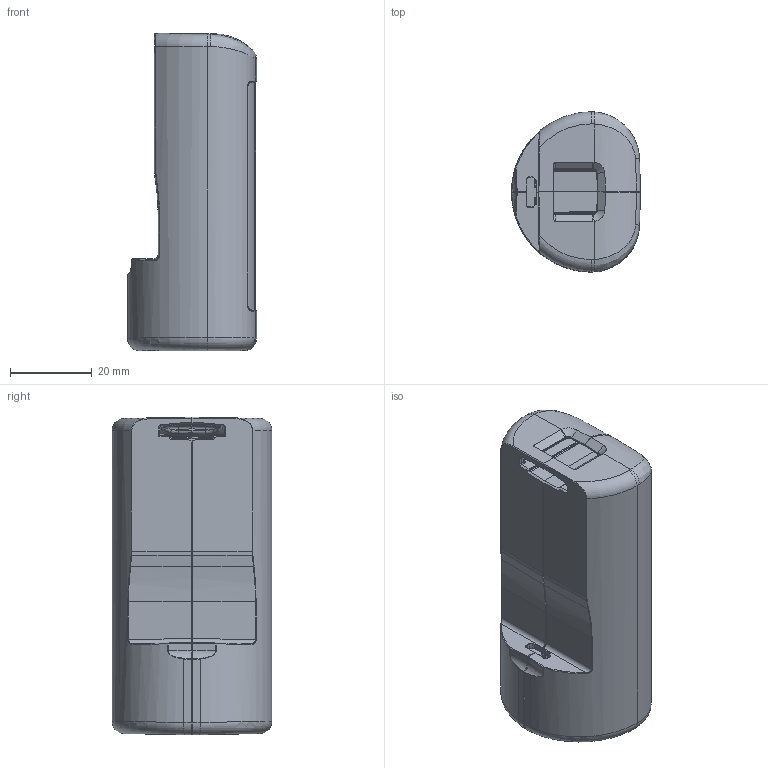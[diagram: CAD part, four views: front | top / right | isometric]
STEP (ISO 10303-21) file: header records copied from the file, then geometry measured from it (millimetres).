
FILE_DESCRIPTION((''),'2;1');
FILE_NAME('15013962Z_DMEC89800555_PACK_A','2020-10-13T16:14:49',('Juergen.Hrach'),(''),'CREO PARAMETRIC BY PTC INC, 2019164','CREO PARAMETRIC BY PTC INC, 2019164','');
FILE_SCHEMA(('CONFIG_CONTROL_DESIGN'));
Length unit declared in the file: millimetre
Products named in the file (1): 15013962Z_DMEC89800555_PACK_A
Bounding box: 31.49 x 39 x 77.5 mm (x, y, z)
Volume: 16306.5 mm3; surface area: 21897 mm2
Topology: 1 solids, 2 shells, 1006 faces, 2591 edges, 1521 vertices
Faces by surface type: cylinder 324, plane 283, bspline 260, cone 55, sphere 47, torus 37
Entity records: 48257 total; most frequent: CARTESIAN_POINT 26708, ORIENTED_EDGE 5090, DIRECTION 3678, EDGE_CURVE 2545, VERTEX_POINT 1521, AXIS2_PLACEMENT_3D 1359, EDGE_LOOP 1008, FACE_OUTER_BOUND 1006
